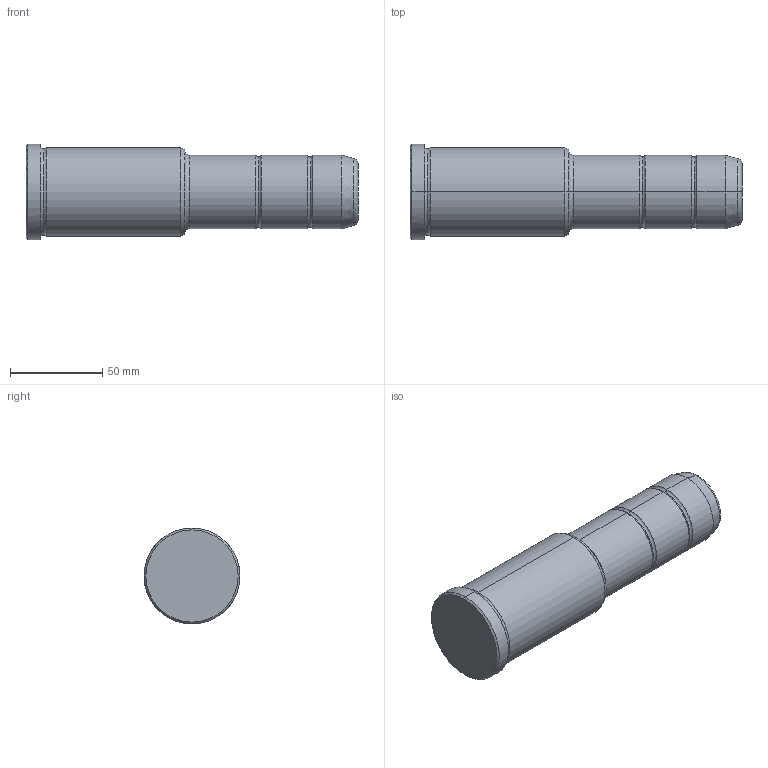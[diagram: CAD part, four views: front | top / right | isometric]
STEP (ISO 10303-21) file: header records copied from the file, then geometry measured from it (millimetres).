
FILE_DESCRIPTION(('CATIA V5 STEP Exchange'),'2;1');
FILE_NAME('C:\Users\Utente\Desktop\IO LAVORO\3D X SITO CF\X SITO\PLASTICA\351\351-40X86X180.stp','2021-10-07T14:18:07+00:00',('none'),('none'),'CATIA Version 5 Release 20 GA (IN-10)','CATIA V5 STEP AP203','none');
FILE_SCHEMA(('CONFIG_CONTROL_DESIGN'));
Length unit declared in the file: millimetre
Products named in the file (1): 351-40X86X180
Bounding box: 180 x 52 x 52 mm (x, y, z)
Volume: 274075.2 mm3; surface area: 28576.8 mm2
Topology: 1 solids, 1 shells, 36 faces, 102 edges, 70 vertices
Faces by surface type: torus 16, cylinder 10, cone 6, plane 4
Entity records: 1292 total; most frequent: CARTESIAN_POINT 321, ORIENTED_EDGE 204, DIRECTION 166, AXIS2_PLACEMENT_3D 115, EDGE_CURVE 102, CIRCLE 78, VERTEX_POINT 70, EDGE_LOOP 38
